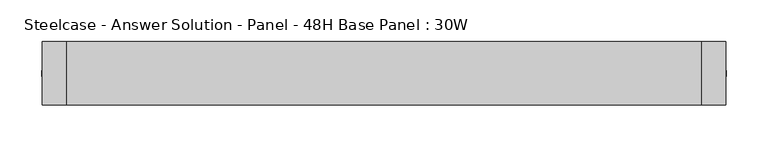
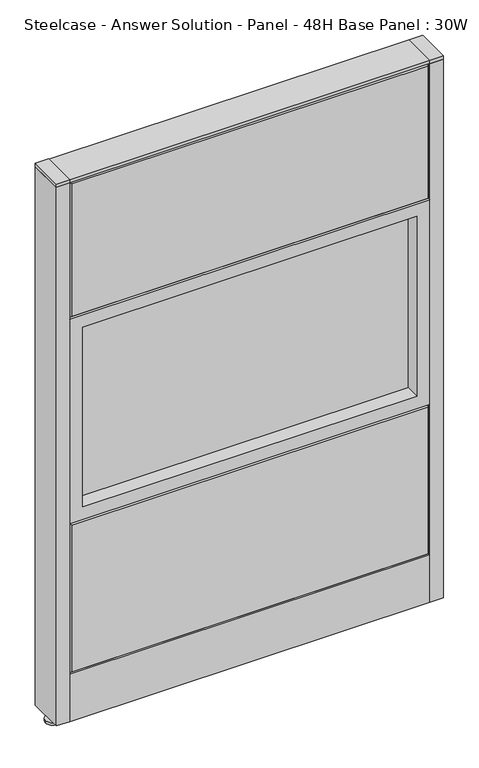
"""IFC4 building model written with IfcOpenShell, lengths in millimetres: furniture geometry, Steelcase - Answer Solution - Panel - 48H Base Panel : 30W."""

from ifc_helpers import new_model, si_unit, point, frame, frame_2d, origin, place, context, project, spatial, polyline, circle_curve, trimmed, segment, composite_curve, outline, extrude, faceted_brep, source, transform, mapped, element, save


def steelcase_answer_solution_panel_48h_base_panel_30w_6a61a2cd(model_context):
    return source(origin(), model_context, "Body", "SolidModel", [
        extrude(outline(composite_curve([segment(trimmed(circle_curve(frame_2d((395.224, 0.0320214)), 5.08), [point((400.304, 0.0320214))], [point((390.144, 0.0320214))], False, "CARTESIAN"), True, "CONTINUOUS"), segment(trimmed(circle_curve(frame_2d((395.224, 0.0320214)), 5.08), [point((390.144, 0.0320214))], [point((400.304, 0.0320214))], False, "CARTESIAN"), True, "CONTINUOUS")], self_intersect=False)), frame((0.0, 0.0, 5.0799671), z_axis=(0.0, 0.0, 1.0), x_axis=(1.0, 0.0, 0.0)), (0.0, 0.0, 1.0), 10.414),
        extrude(outline(composite_curve([segment(trimmed(circle_curve(frame_2d((395.224, 0.0320214)), 15.24), [point((410.464, 0.0320214))], [point((379.984, 0.0320214))], False, "CARTESIAN"), True, "CONTINUOUS"), segment(trimmed(circle_curve(frame_2d((395.224, 0.0320214)), 15.24), [point((379.984, 0.0320214))], [point((410.464, 0.0320214))], False, "CARTESIAN"), True, "CONTINUOUS")], self_intersect=False)), frame((0.0, 0.0, -3.29e-05), z_axis=(0.0, 0.0, 1.0), x_axis=(1.0, 0.0, 0.0)), (0.0, 0.0, 1.0), 5.08),
        extrude(outline(polyline([(409.575, 38.1320408), (409.575, -38.0679592), (381.0, -38.0679592), (381.0, 38.1320408), (409.575, 38.1320408)])), frame((0.0, 0.0, 1218.2348), z_axis=(0.0, 0.0, 1.0), x_axis=(1.0, 0.0, 0.0)), (0.0, 0.0, 1.0), 7.3151671),
        extrude(outline(polyline([(409.575, 38.1320408), (409.575, -38.0679592), (381.0, -38.0679592), (381.0, 38.1320408), (409.575, 38.1320408)])), frame((0.0, 0.0, 15.4939671), z_axis=(0.0, 0.0, 1.0), x_axis=(1.0, 0.0, 0.0)), (0.0, 0.0, 1.0), 1202.7408329),
        extrude(outline(composite_curve([segment(trimmed(circle_curve(frame_2d((-395.224, 0.0320214)), 5.08), [point((-400.304, 0.0320214))], [point((-390.144, 0.0320214))], False, "CARTESIAN"), True, "CONTINUOUS"), segment(trimmed(circle_curve(frame_2d((-395.224, 0.0320214)), 5.08), [point((-390.144, 0.0320214))], [point((-400.304, 0.0320214))], False, "CARTESIAN"), True, "CONTINUOUS")], self_intersect=False)), frame((0.0, 0.0, 5.0799671), z_axis=(0.0, 0.0, 1.0), x_axis=(1.0, 0.0, 0.0)), (0.0, 0.0, 1.0), 10.414),
        extrude(outline(composite_curve([segment(trimmed(circle_curve(frame_2d((-395.224, 0.0320214)), 15.24), [point((-410.464, 0.0320214))], [point((-379.984, 0.0320214))], False, "CARTESIAN"), True, "CONTINUOUS"), segment(trimmed(circle_curve(frame_2d((-395.224, 0.0320214)), 15.24), [point((-379.984, 0.0320214))], [point((-410.464, 0.0320214))], False, "CARTESIAN"), True, "CONTINUOUS")], self_intersect=False)), frame((0.0, 0.0, -3.29e-05), z_axis=(0.0, 0.0, 1.0), x_axis=(1.0, 0.0, 0.0)), (0.0, 0.0, 1.0), 5.08),
        extrude(outline(polyline([(-409.575, 38.1320408), (-381.0, 38.1320408), (-381.0, -38.0679592), (-409.575, -38.0679592), (-409.575, 38.1320408)])), frame((0.0, 0.0, 1218.2348), z_axis=(0.0, 0.0, 1.0), x_axis=(1.0, 0.0, 0.0)), (0.0, 0.0, 1.0), 7.3151671),
        extrude(outline(polyline([(-409.575, 38.1320408), (-381.0, 38.1320408), (-381.0, -38.0679592), (-409.575, -38.0679592), (-409.575, 38.1320408)])), frame((0.0, 0.0, 15.4939671), z_axis=(0.0, 0.0, 1.0), x_axis=(1.0, 0.0, 0.0)), (0.0, 0.0, 1.0), 1202.7408329),
        extrude(outline(polyline([(-353.06, 6.346049), (353.06, 6.346049), (353.06, -6.353951), (-353.06, -6.353951), (-353.06, 6.346049)])), frame((0.0, 0.0, 485.14), z_axis=(0.0, 0.0, 1.0), x_axis=(1.0, 0.0, 0.0)), (0.0, 0.0, 1.0), 401.32),
        extrude(outline(polyline([(914.4, -381.0), (457.2, -381.0), (457.2, 381.0), (914.4, 381.0), (914.4, -381.0)]), holes=[polyline([(886.46, -353.06), (886.46, 353.06), (485.14, 353.06), (485.14, -353.06), (886.46, -353.06)])]), frame((0.0, -38.103951, 0.0), z_axis=(0.0, 1.0, 0.0), x_axis=(0.0, 0.0, 1.0)), (0.0, 0.0, 1.0), 76.2),
        faceted_brep([(-376.174, 38.1635011, 1214.374), (376.174, 38.1635011, 1214.374), (376.174, 38.1635011, 919.226), (-376.174, 38.1635011, 919.226), (-381.0, 33.3375011, 1219.2), (-381.0, 33.3375011, 914.4), (381.0, 33.3375011, 914.4), (381.0, 33.3375011, 1219.2)], [[[0, 1, 2, 3]], [[4, 5, 6, 7]], [[4, 7, 1, 0]], [[7, 6, 2, 1]], [[6, 5, 3, 2]], [[5, 4, 0, 3]]]),
        faceted_brep([(-376.174, 38.1635011, 452.374), (376.174, 38.1635011, 452.374), (376.174, 38.1635011, 125.476), (-376.174, 38.1635011, 125.476), (-381.0, 33.3375011, 457.2), (-381.0, 33.3375011, 120.65), (381.0, 33.3375011, 120.65), (381.0, 33.3375011, 457.2)], [[[0, 1, 2, 3]], [[4, 5, 6, 7]], [[4, 7, 1, 0]], [[7, 6, 2, 1]], [[6, 5, 3, 2]], [[5, 4, 0, 3]]]),
        extrude(outline(polyline([(353.06, -6.346049), (-353.06, -6.346049), (-353.06, 6.353951), (353.06, 6.353951), (353.06, -6.346049)])), frame((0.0, 0.0, 485.14), z_axis=(0.0, 0.0, 1.0), x_axis=(1.0, 0.0, 0.0)), (0.0, 0.0, 1.0), 401.32),
        extrude(outline(polyline([(914.4, 381.0), (914.4, -381.0), (457.2, -381.0), (457.2, 381.0), (914.4, 381.0)]), holes=[polyline([(886.46, 353.06), (485.14, 353.06), (485.14, -353.06), (886.46, -353.06), (886.46, 353.06)])]), frame((0.0, -38.096049, 0.0), z_axis=(0.0, 1.0, 0.0), x_axis=(0.0, 0.0, 1.0)), (0.0, 0.0, 1.0), 76.2),
        faceted_brep([(376.174, -38.1635011, 1214.374), (-376.174, -38.1635011, 1214.374), (-376.174, -38.1635011, 919.226), (376.174, -38.1635011, 919.226), (381.0, -33.3375011, 1219.2), (381.0, -33.3375011, 914.4), (-381.0, -33.3375011, 914.4), (-381.0, -33.3375011, 1219.2)], [[[0, 1, 2, 3]], [[4, 5, 6, 7]], [[4, 7, 1, 0]], [[7, 6, 2, 1]], [[6, 5, 3, 2]], [[5, 4, 0, 3]]]),
        faceted_brep([(376.174, -38.1635011, 452.374), (-376.174, -38.1635011, 452.374), (-376.174, -38.1635011, 125.476), (376.174, -38.1635011, 125.476), (381.0, -33.3375011, 457.2), (381.0, -33.3375011, 120.65), (-381.0, -33.3375011, 120.65), (-381.0, -33.3375011, 457.2)], [[[0, 1, 2, 3]], [[4, 5, 6, 7]], [[4, 7, 1, 0]], [[7, 6, 2, 1]], [[6, 5, 3, 2]], [[5, 4, 0, 3]]]),
        extrude(outline(polyline([(381.0, 38.1000194), (381.0, -38.1000194), (-381.0, -38.1000194), (-381.0, 38.1000194), (381.0, 38.1000194)])), frame((0.0, 0.0, 1219.2), z_axis=(0.0, 0.0, 1.0), x_axis=(1.0, 0.0, 0.0)), (0.0, 0.0, 1.0), 6.35),
        extrude(outline(polyline([(25.4000011, 119.8575157), (25.4000011, 120.65), (38.1000194, 120.65), (38.1000194, 15.494), (37.3075215, 15.494), (37.3075215, 119.8575157), (25.4000011, 119.8575157)])), frame((-381.0, 0.0, 0.0), z_axis=(1.0, 0.0, 0.0), x_axis=(0.0, 1.0, 0.0)), (0.0, 0.0, 1.0), 762.0),
        extrude(outline(polyline([(-25.4000011, 119.8575157), (-37.3075215, 119.8575157), (-37.3075215, 15.494), (-38.1000194, 15.494), (-38.1000194, 120.65), (-25.4000011, 120.65), (-25.4000011, 119.8575157)])), frame((-381.0, 0.0, 0.0), z_axis=(1.0, 0.0, 0.0), x_axis=(0.0, 1.0, 0.0)), (0.0, 0.0, 1.0), 762.0),
    ])


if __name__ == "__main__":
    model = new_model("IFC4")
    model_context = context("Model", 3, world=origin())
    ifc_project = project(units=[si_unit("LENGTHUNIT", "METRE", prefix="MILLI")], contexts=[model_context])
    site = spatial("IfcSite", under=ifc_project)
    building = spatial("IfcBuilding", under=site)
    placement = place(None, origin())
    steelcase_answer_solution_panel_48h_base_panel_30w_shape = steelcase_answer_solution_panel_48h_base_panel_30w_6a61a2cd(model_context)
    element("IfcFurniture", 1, ObjectType="Steelcase - Answer Solution - Panel - 48H Base Panel : 30W", at=placement, inside=building, context=model_context, shape_type="MappedRepresentation", body=[
        mapped(steelcase_answer_solution_panel_48h_base_panel_30w_shape, transform((0.0, 0.0, 0.0), x_axis=(1.0, 0.0, 0.0), y_axis=(0.0, 1.0, 0.0), z_axis=(0.0, 0.0, 1.0))),
    ])
    save(model, "model.ifc")
